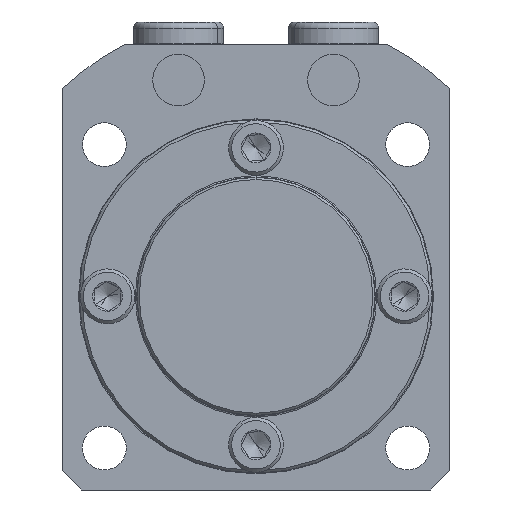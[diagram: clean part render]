
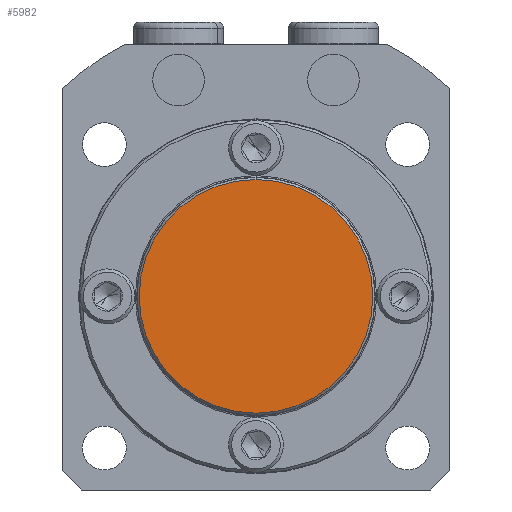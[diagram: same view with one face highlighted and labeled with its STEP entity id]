
A CAD part, front view. The second image highlights one B-rep face of the part: STEP entity #5982.
In plain terms, the highlighted planar face has unit normal (0, -1, 0).
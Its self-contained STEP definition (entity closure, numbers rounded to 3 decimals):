
#357 = EDGE_LOOP ( 'NONE', ( #6266, #6267 ) ) ;
#1003 = CIRCLE ( 'NONE', #1006, 18.1 ) ;
#1006 = AXIS2_PLACEMENT_3D ( 'NONE', #4888, #4889, #4890 ) ;
#1109 = AXIS2_PLACEMENT_3D ( 'NONE', #1426, #1438, #1439 ) ;
#1426 = CARTESIAN_POINT ( 'NONE',  ( 0., -10., 0. ) ) ;
#1434 = FACE_OUTER_BOUND ( 'NONE', #357, .T. ) ;
#1435 = PLANE ( 'NONE',  #1109 ) ;
#1438 = DIRECTION ( 'NONE',  ( 0., -1., 0. ) ) ;
#1439 = DIRECTION ( 'NONE',  ( 0., 0., -1. ) ) ;
#3076 = CIRCLE ( 'NONE', #3081, 18.1 ) ;
#3081 = AXIS2_PLACEMENT_3D ( 'NONE', #3932, #3933, #3934 ) ;
#3932 = CARTESIAN_POINT ( 'NONE',  ( 0., -10., 0. ) ) ;
#3933 = DIRECTION ( 'NONE',  ( 0., -1., 0. ) ) ;
#3934 = DIRECTION ( 'NONE',  ( 0., 0., -1. ) ) ;
#4225 = CARTESIAN_POINT ( 'NONE',  ( 0., -10., -18.1 ) ) ;
#4240 = CARTESIAN_POINT ( 'NONE',  ( 0., -10., 18.1 ) ) ;
#4888 = CARTESIAN_POINT ( 'NONE',  ( 0., -10., 0. ) ) ;
#4889 = DIRECTION ( 'NONE',  ( 0., -1., 0. ) ) ;
#4890 = DIRECTION ( 'NONE',  ( 0., 0., -1. ) ) ;
#5096 = EDGE_CURVE ( 'NONE', #5675, #5690, #3076, .T. ) ;
#5675 = VERTEX_POINT ( 'NONE', #4225 ) ;
#5690 = VERTEX_POINT ( 'NONE', #4240 ) ;
#5908 = EDGE_CURVE ( 'NONE', #5690, #5675, #1003, .T. ) ;
#5982 = ADVANCED_FACE ( 'NONE', ( #1434 ), #1435, .T. ) ;
#6266 = ORIENTED_EDGE ( 'NONE', *, *, #5908, .T. ) ;
#6267 = ORIENTED_EDGE ( 'NONE', *, *, #5096, .T. ) ;
